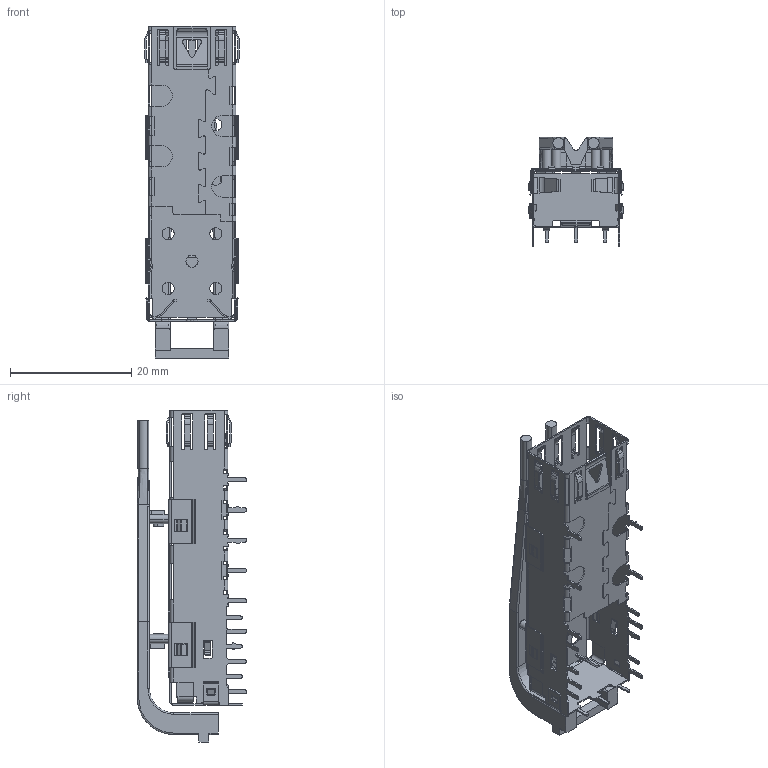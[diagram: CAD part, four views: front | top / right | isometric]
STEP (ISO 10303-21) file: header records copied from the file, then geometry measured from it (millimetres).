
FILE_DESCRIPTION((''),'2;1');
FILE_NAME('46044-01N011_ASM','2021-07-15T',('glg'),(''),'CREO PARAMETRIC BY PTC INC, 2017170','CREO PARAMETRIC BY PTC INC, 2017170','');
FILE_SCHEMA(('AUTOMOTIVE_DESIGN { 1 0 10303 214 1 1 1 1 }'));
Length unit declared in the file: millimetre
Products named in the file (1): 46044-01N011_ASM
Bounding box: 15.6 x 18.04 x 54.8 mm (x, y, z)
Surface area: 6501.7 mm2 (no closed solid volume)
Topology: 0 solids, 7 shells, 1697 faces, 4426 edges, 2678 vertices
Faces by surface type: plane 1070, cylinder 575, bspline 44, torus 8
Entity records: 55682 total; most frequent: CARTESIAN_POINT 10761, ORIENTED_EDGE 8774, DIRECTION 8769, EDGE_CURVE 4426, VECTOR 3121, LINE 3121, AXIS2_PLACEMENT_3D 2824, VERTEX_POINT 2678
